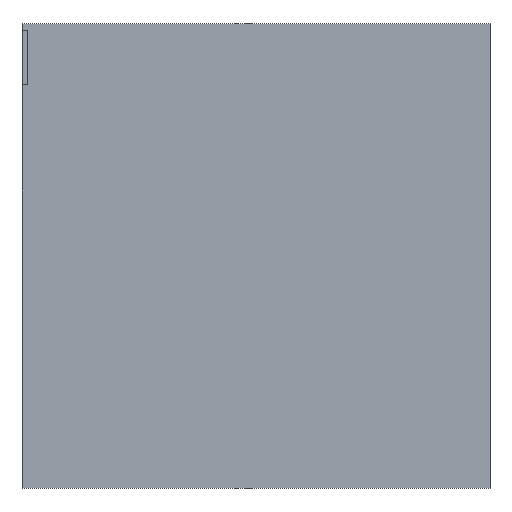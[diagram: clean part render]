
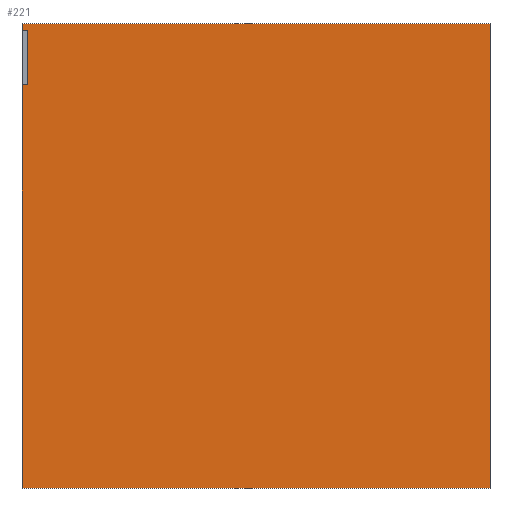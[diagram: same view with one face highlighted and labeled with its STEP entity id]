
A CAD part, top view. The second image highlights one B-rep face of the part: STEP entity #221.
In plain terms, the highlighted planar face has unit normal (0, 0, 1).
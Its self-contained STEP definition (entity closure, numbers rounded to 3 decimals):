
#37=CARTESIAN_POINT('',(2980.0,120.0,400.0));
#38=VERTEX_POINT('',#37);
#45=CARTESIAN_POINT('',(2720.5,120.0,400.0));
#46=VERTEX_POINT('',#45);
#47=CARTESIAN_POINT('',(2720.5,120.0,400.0));
#48=DIRECTION('',(1.0,0.0,0.0));
#49=VECTOR('',#48,1.);
#50=LINE('',#47,#49);
#51=EDGE_CURVE('',#46,#38,#50,.T.);
#75=CARTESIAN_POINT('',(2980.0,377.822,400.0));
#76=VERTEX_POINT('',#75);
#83=CARTESIAN_POINT('',(2980.0,120.0,400.0));
#84=DIRECTION('',(0.,1.0,0.0));
#85=VECTOR('',#84,1.);
#86=LINE('',#83,#85);
#87=EDGE_CURVE('',#38,#76,#86,.T.);
#106=CARTESIAN_POINT('',(2720.5,377.822,400.0));
#107=VERTEX_POINT('',#106);
#114=CARTESIAN_POINT('',(2980.0,377.822,400.0));
#115=DIRECTION('',(-1.0,0.,0.0));
#116=VECTOR('',#115,1.);
#117=LINE('',#114,#116);
#118=EDGE_CURVE('',#76,#107,#117,.T.);
#173=CARTESIAN_POINT('',(2720.5,120.0,400.0));
#174=DIRECTION('',(0.0,0.0,1.0));
#175=DIRECTION('',(1.0,0.0,0.0));
#176=AXIS2_PLACEMENT_3D('',#173,#174,#175);
#177=PLANE('',#176);
#178=ORIENTED_EDGE('',*,*,#51,.T.);
#179=ORIENTED_EDGE('',*,*,#87,.T.);
#180=ORIENTED_EDGE('',*,*,#118,.T.);
#181=CARTESIAN_POINT('',(2720.5,373.822,400.0));
#182=VERTEX_POINT('',#181);
#183=CARTESIAN_POINT('',(2720.5,377.822,400.0));
#184=DIRECTION('',(0.,-1.0,0.0));
#185=VECTOR('',#184,1.);
#186=LINE('',#183,#185);
#187=EDGE_CURVE('',#107,#182,#186,.T.);
#188=ORIENTED_EDGE('',*,*,#187,.T.);
#189=CARTESIAN_POINT('',(2723.5,373.822,400.0));
#190=VERTEX_POINT('',#189);
#191=CARTESIAN_POINT('',(2723.5,373.822,400.0));
#192=DIRECTION('',(-1.0,0.0,0.0));
#193=VECTOR('',#192,1.);
#194=LINE('',#191,#193);
#195=EDGE_CURVE('',#190,#182,#194,.T.);
#196=ORIENTED_EDGE('',*,*,#195,.F.);
#197=CARTESIAN_POINT('',(2723.5,343.822,400.0));
#198=VERTEX_POINT('',#197);
#199=CARTESIAN_POINT('',(2723.5,343.822,400.0));
#200=DIRECTION('',(0.0,1.0,0.0));
#201=VECTOR('',#200,1.);
#202=LINE('',#199,#201);
#203=EDGE_CURVE('',#198,#190,#202,.T.);
#204=ORIENTED_EDGE('',*,*,#203,.F.);
#205=CARTESIAN_POINT('',(2720.5,343.822,400.0));
#206=VERTEX_POINT('',#205);
#207=CARTESIAN_POINT('',(2720.5,343.822,400.0));
#208=DIRECTION('',(1.0,0.0,0.0));
#209=VECTOR('',#208,1.);
#210=LINE('',#207,#209);
#211=EDGE_CURVE('',#206,#198,#210,.T.);
#212=ORIENTED_EDGE('',*,*,#211,.F.);
#213=CARTESIAN_POINT('',(2720.5,377.822,400.0));
#214=DIRECTION('',(0.,-1.0,0.0));
#215=VECTOR('',#214,1.);
#216=LINE('',#213,#215);
#217=EDGE_CURVE('',#206,#46,#216,.T.);
#218=ORIENTED_EDGE('',*,*,#217,.T.);
#219=EDGE_LOOP('',(#178,#179,#180,#188,#196,#204,#212,#218));
#220=FACE_BOUND('',#219,.T.);
#221=ADVANCED_FACE('',(#220),#177,.T.);
